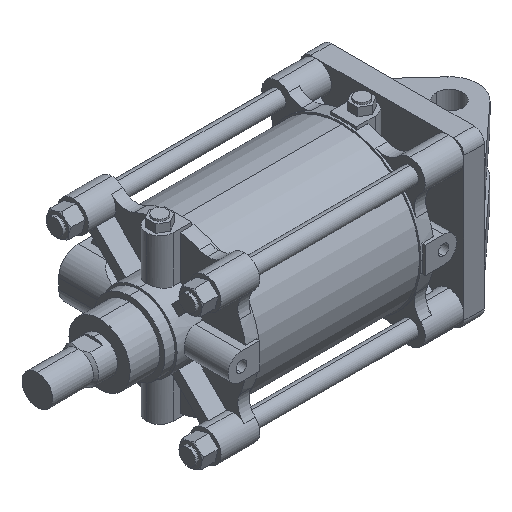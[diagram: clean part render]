
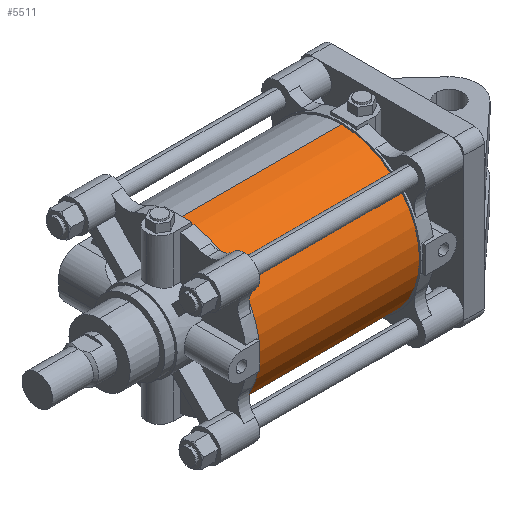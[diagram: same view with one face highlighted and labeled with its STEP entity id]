
A CAD part, isometric view. The second image highlights one B-rep face of the part: STEP entity #5511.
In plain terms, the highlighted cylindrical face has radius 76.5 mm (diameter 153 mm), a partial arc.
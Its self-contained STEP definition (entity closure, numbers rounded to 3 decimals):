
#620 = DIRECTION ( 'NONE',  ( 1., 0., 0. ) ) ;
#985 = CARTESIAN_POINT ( 'NONE',  ( 79., 0., 0. ) ) ;
#1516 = CARTESIAN_POINT ( 'NONE',  ( -79., 0., 76.5 ) ) ;
#1669 = AXIS2_PLACEMENT_3D ( 'NONE', #2348, #9908, #10280 ) ;
#2333 = VERTEX_POINT ( 'NONE', #7028 ) ;
#2348 = CARTESIAN_POINT ( 'NONE',  ( 79., 0., 0. ) ) ;
#2477 = VERTEX_POINT ( 'NONE', #5377 ) ;
#2525 = ORIENTED_EDGE ( 'NONE', *, *, #9934, .F. ) ;
#2896 = LINE ( 'NONE', #10781, #4268 ) ;
#3090 = AXIS2_PLACEMENT_3D ( 'NONE', #985, #620, #9590 ) ;
#3175 = ORIENTED_EDGE ( 'NONE', *, *, #4671, .T. ) ;
#3316 = CARTESIAN_POINT ( 'NONE',  ( -79., 0., -76.5 ) ) ;
#3587 = ORIENTED_EDGE ( 'NONE', *, *, #7226, .F. ) ;
#3771 = CYLINDRICAL_SURFACE ( 'NONE', #1669, 76.5 ) ;
#4066 = CARTESIAN_POINT ( 'NONE',  ( -79., 0., 0. ) ) ;
#4268 = VECTOR ( 'NONE', #9895, 1000. ) ;
#4527 = CIRCLE ( 'NONE', #9742, 76.5 ) ;
#4611 = FACE_OUTER_BOUND ( 'NONE', #6763, .T. ) ;
#4671 = EDGE_CURVE ( 'NONE', #2333, #6366, #10661, .T. ) ;
#4973 = CIRCLE ( 'NONE', #3090, 76.5 ) ;
#4997 = VECTOR ( 'NONE', #5547, 1000. ) ;
#5363 = CARTESIAN_POINT ( 'NONE',  ( 79., 0., 76.5 ) ) ;
#5377 = CARTESIAN_POINT ( 'NONE',  ( 79., 0., -76.5 ) ) ;
#5511 = ADVANCED_FACE ( 'NONE', ( #4611 ), #3771, .T. ) ;
#5547 = DIRECTION ( 'NONE',  ( -1., 0., 0. ) ) ;
#6366 = VERTEX_POINT ( 'NONE', #1516 ) ;
#6763 = EDGE_LOOP ( 'NONE', ( #3587, #2525, #3175, #8913 ) ) ;
#6814 = EDGE_CURVE ( 'NONE', #6366, #10229, #4527, .T. ) ;
#7028 = CARTESIAN_POINT ( 'NONE',  ( 79., 0., 76.5 ) ) ;
#7226 = EDGE_CURVE ( 'NONE', #2477, #10229, #2896, .T. ) ;
#8913 = ORIENTED_EDGE ( 'NONE', *, *, #6814, .T. ) ;
#9000 = DIRECTION ( 'NONE',  ( 1., 0., 0. ) ) ;
#9590 = DIRECTION ( 'NONE',  ( 0., 0., -1. ) ) ;
#9742 = AXIS2_PLACEMENT_3D ( 'NONE', #4066, #9000, #10243 ) ;
#9895 = DIRECTION ( 'NONE',  ( -1., 0., 0. ) ) ;
#9908 = DIRECTION ( 'NONE',  ( -1., 0., 0. ) ) ;
#9934 = EDGE_CURVE ( 'NONE', #2333, #2477, #4973, .T. ) ;
#10229 = VERTEX_POINT ( 'NONE', #3316 ) ;
#10243 = DIRECTION ( 'NONE',  ( 0., 0., -1. ) ) ;
#10280 = DIRECTION ( 'NONE',  ( 0., 0., 1. ) ) ;
#10661 = LINE ( 'NONE', #5363, #4997 ) ;
#10781 = CARTESIAN_POINT ( 'NONE',  ( 79., 0., -76.5 ) ) ;
